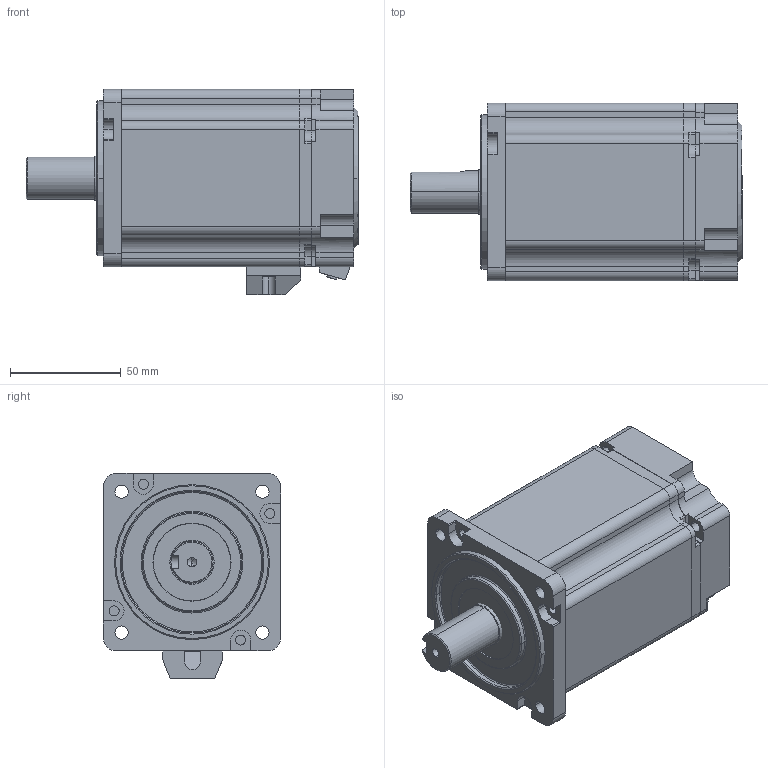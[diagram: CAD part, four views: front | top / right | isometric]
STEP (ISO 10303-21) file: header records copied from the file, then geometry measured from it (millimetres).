
FILE_DESCRIPTION (( 'STEP AP203' ), '1' );
FILE_NAME ('1KW.STEP', '2024-06-13T05:28:36', ( '' ), ( '' ), 'SwSTEP 2.0', 'SolidWorks 2018', '' );
FILE_SCHEMA (( 'CONFIG_CONTROL_DESIGN' ));
Length unit declared in the file: millimetre
Products named in the file (8): 蚐猾; 3.2N.M儂褲; 1.27N.M蛌粣; ヶ裔; 1KW; 綴裔; 情遴綴欶; 雄薯盄揤啣
Assembly tree (7 placements, depth 2):
  1KW
    1.27N.M蛌粣
    情遴綴欶
    雄薯盄揤啣
    綴裔
    ヶ裔
    蚐猾
    3.2N.M儂褲
Bounding box: 150 x 80.2 x 92.7 mm (x, y, z)
Volume: 219228.8 mm3; surface area: 127200.4 mm2
Topology: 7 solids, 7 shells, 807 faces, 2120 edges, 1300 vertices
Faces by surface type: cylinder 360, plane 267, cone 57, sphere 50, torus 49, bspline 24
Entity records: 26196 total; most frequent: CARTESIAN_POINT 5102, DIRECTION 4520, ORIENTED_EDGE 4112, EDGE_CURVE 2056, AXIS2_PLACEMENT_3D 1776, VERTEX_POINT 1300, CIRCLE 983, VECTOR 968
